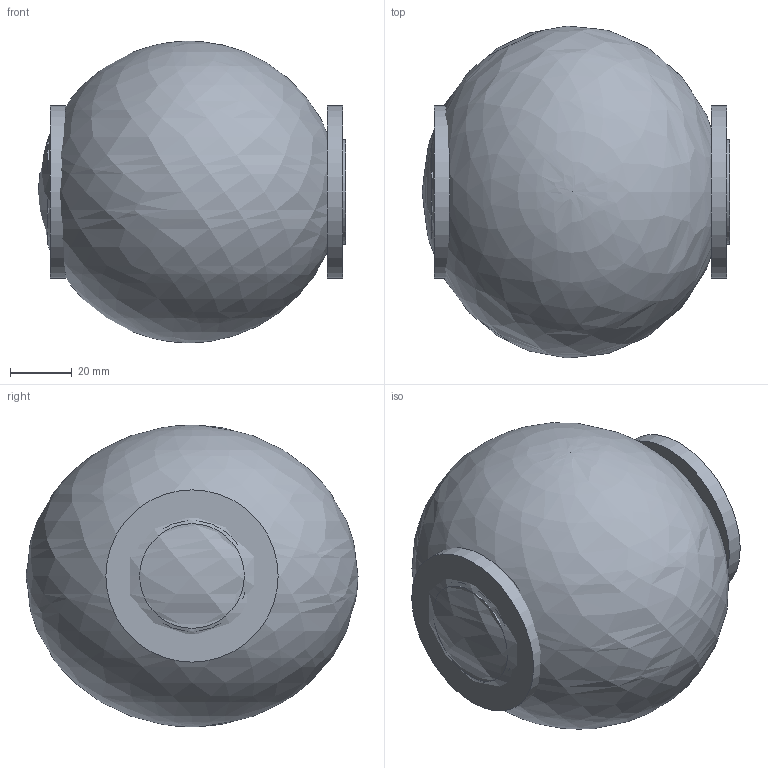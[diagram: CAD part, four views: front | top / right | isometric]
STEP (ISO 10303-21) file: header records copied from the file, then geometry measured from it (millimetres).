
FILE_DESCRIPTION(('FreeCAD Model'),'2;1');
FILE_NAME('Open CASCADE Shape Model','2026-10-05T09:22:52',('Author'),( ''),'Open CASCADE STEP processor 7.8','FreeCAD','Unknown');
FILE_SCHEMA(('AUTOMOTIVE_DESIGN { 1 0 10303 214 1 1 1 1 }'));
Length unit declared in the file: millimetre
Products named in the file (6): Export_shoulder_abduction; ShoulderSocket; ShoulderBearing-1; ShoulderCap-1; ShoulderBearing1; ShoulderCap1
Assembly tree (5 placements, depth 2):
  Export_shoulder_abduction
    ShoulderSocket
    ShoulderBearing-1
    ShoulderCap-1
    ShoulderBearing1
    ShoulderCap1
Bounding box: 100 x 107.92 x 98 mm (x, y, z)
Volume: 566386.4 mm3; surface area: 45731.9 mm2
Topology: 5 solids, 5 shells, 15 faces, 21 edges, 14 vertices
Faces by surface type: plane 8, cylinder 6, bspline 1
Full cylindrical faces by diameter (mm): 34 x2, 36 x2, 56 x2
Entity records: 438 total; most frequent: CARTESIAN_POINT 86, DIRECTION 70, ORIENTED_EDGE 36, AXIS2_PLACEMENT_3D 32, FACE_BOUND 19, EDGE_LOOP 18, EDGE_CURVE 18, ADVANCED_FACE 15
